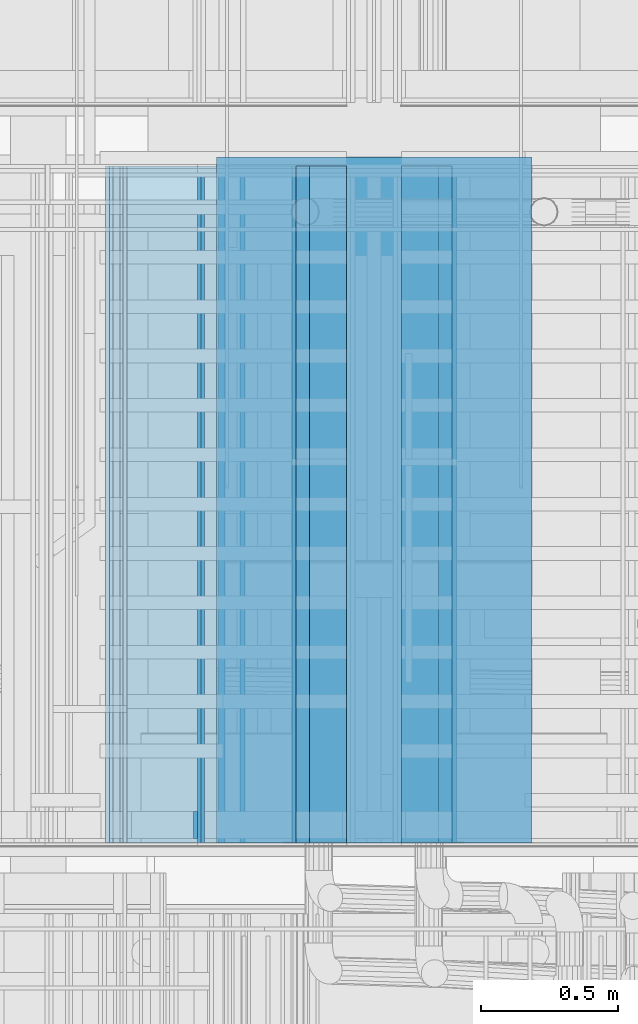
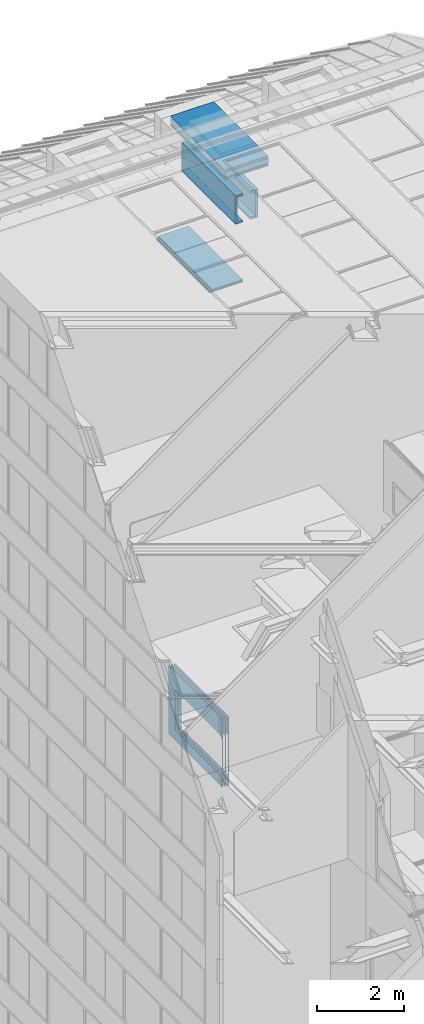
# One storey, part 149 of 583: 31 building element parts, 3 openings, 12 elements without a shape of their own.
"""IFC2X3 building model written with IfcOpenShell, lengths in metres."""

from ifc_helpers import new_model, entity, si_unit, converted_unit, derived_unit, money_unit, direction, frame, frame_2d, origin_with_axes, place, context, subcontext, project, spatial, polyline, rectangle, outline, extrude, material, type_object, element, aggregate, save


model = new_model("IFC2X3")

# Units and contexts
model_context = context("Model", 3, precision=1e-05, world=origin_with_axes(), true_north=direction((0.0, 1.0)))
body_context = subcontext(model_context, "Body", "Model", "MODEL_VIEW", scale=1.0)
ifc_project = project(units=[si_unit("LENGTHUNIT", "METRE"), si_unit("AREAUNIT", "SQUARE_METRE"), si_unit("VOLUMEUNIT", "CUBIC_METRE"), si_unit("ABSORBEDDOSEUNIT", "GRAY"), si_unit("AMOUNTOFSUBSTANCEUNIT", "MOLE"), si_unit("DOSEEQUIVALENTUNIT", "SIEVERT"), si_unit("ELECTRICCAPACITANCEUNIT", "FARAD"), si_unit("ELECTRICCHARGEUNIT", "COULOMB"), si_unit("ELECTRICCONDUCTANCEUNIT", "SIEMENS"), si_unit("ELECTRICCURRENTUNIT", "AMPERE"), si_unit("ELECTRICRESISTANCEUNIT", "OHM"), si_unit("ELECTRICVOLTAGEUNIT", "VOLT"), si_unit("ENERGYUNIT", "JOULE"), si_unit("FORCEUNIT", "NEWTON"), si_unit("FREQUENCYUNIT", "HERTZ"), si_unit("ILLUMINANCEUNIT", "LUX"), si_unit("INDUCTANCEUNIT", "HENRY"), si_unit("LUMINOUSFLUXUNIT", "LUMEN"), si_unit("LUMINOUSINTENSITYUNIT", "CANDELA"), si_unit("MAGNETICFLUXDENSITYUNIT", "TESLA"), si_unit("MAGNETICFLUXUNIT", "WEBER"), si_unit("MASSUNIT", "GRAM"), converted_unit("PLANEANGLEUNIT", "degree", entity("IfcReal", 0.0174532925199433), si_unit("PLANEANGLEUNIT", "RADIAN"), dimensions=[0, 0, 0, 0, 0, 0, 0]), si_unit("POWERUNIT", "WATT"), si_unit("PRESSUREUNIT", "PASCAL"), si_unit("RADIOACTIVITYUNIT", "BECQUEREL"), si_unit("SOLIDANGLEUNIT", "STERADIAN"), si_unit("THERMODYNAMICTEMPERATUREUNIT", "KELVIN"), si_unit("TIMEUNIT", "SECOND"), derived_unit("ACCELERATIONUNIT", [(si_unit("LENGTHUNIT", "METRE"), 1), (si_unit("TIMEUNIT", "SECOND"), -2)]), derived_unit("ANGULARVELOCITYUNIT", [(converted_unit("PLANEANGLEUNIT", "degree", entity("IfcReal", 0.0174532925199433), si_unit("PLANEANGLEUNIT", "RADIAN"), dimensions=[0, 0, 0, 0, 0, 0, 0]), 1), (si_unit("TIMEUNIT", "SECOND"), -1)]), derived_unit("CURVATUREUNIT", [(converted_unit("PLANEANGLEUNIT", "degree", entity("IfcReal", 0.0174532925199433), si_unit("PLANEANGLEUNIT", "RADIAN"), dimensions=[0, 0, 0, 0, 0, 0, 0]), 1), (si_unit("LENGTHUNIT", "METRE"), -1)]), derived_unit("DYNAMICVISCOSITYUNIT", [(si_unit("PRESSUREUNIT", "PASCAL"), 1), (si_unit("TIMEUNIT", "SECOND"), 1)]), derived_unit("HEATFLUXDENSITYUNIT", [(si_unit("POWERUNIT", "WATT"), 1), (si_unit("LENGTHUNIT", "METRE"), -2)]), derived_unit("HEATINGVALUEUNIT", [(si_unit("ENERGYUNIT", "JOULE"), 1), (si_unit("MASSUNIT", "GRAM"), -1)]), derived_unit("INTEGERCOUNTRATEUNIT", [(si_unit("TIMEUNIT", "SECOND"), -1)]), derived_unit("IONCONCENTRATIONUNIT", [(si_unit("MASSUNIT", "GRAM"), 1), (si_unit("VOLUMEUNIT", "CUBIC_METRE"), -1)]), derived_unit("ISOTHERMALMOISTURECAPACITYUNIT", [(si_unit("VOLUMEUNIT", "CUBIC_METRE"), 1), (si_unit("MASSUNIT", "GRAM"), -1)]), derived_unit("KINEMATICVISCOSITYUNIT", [(si_unit("AREAUNIT", "SQUARE_METRE"), 1), (si_unit("TIMEUNIT", "SECOND"), -1)]), derived_unit("LINEARFORCEUNIT", [(si_unit("FORCEUNIT", "NEWTON"), 1), (si_unit("LENGTHUNIT", "METRE"), -1)]), derived_unit("LINEARMOMENTUNIT", [(si_unit("FORCEUNIT", "NEWTON"), 1), (si_unit("LENGTHUNIT", "METRE"), -1)]), derived_unit("LINEARSTIFFNESSUNIT", [(si_unit("FORCEUNIT", "NEWTON"), 1), (si_unit("LENGTHUNIT", "METRE"), -1)]), derived_unit("LINEARVELOCITYUNIT", [(si_unit("LENGTHUNIT", "METRE"), 1), (si_unit("TIMEUNIT", "SECOND"), -1)]), derived_unit("LUMINOUSINTENSITYDISTRIBUTIONUNIT", [(si_unit("LUMINOUSINTENSITYUNIT", "CANDELA"), 1), (si_unit("LUMINOUSFLUXUNIT", "LUMEN"), -1)]), derived_unit("MASSDENSITYUNIT", [(si_unit("MASSUNIT", "GRAM"), 1), (si_unit("VOLUMEUNIT", "CUBIC_METRE"), -1)]), derived_unit("MASSFLOWRATEUNIT", [(si_unit("MASSUNIT", "GRAM"), 1), (si_unit("TIMEUNIT", "SECOND"), -1)]), derived_unit("MASSPERLENGTHUNIT", [(si_unit("MASSUNIT", "GRAM"), 1), (si_unit("LENGTHUNIT", "METRE"), -1)]), derived_unit("MODULUSOFELASTICITYUNIT", [(si_unit("FORCEUNIT", "NEWTON"), 1), (si_unit("AREAUNIT", "SQUARE_METRE"), -1)]), derived_unit("MODULUSOFLINEARSUBGRADEREACTIONUNIT", [(si_unit("FORCEUNIT", "NEWTON"), 1), (si_unit("LENGTHUNIT", "METRE"), -2)]), derived_unit("MODULUSOFROTATIONALSUBGRADEREACTIONUNIT", [(si_unit("FORCEUNIT", "NEWTON"), 1), (si_unit("LENGTHUNIT", "METRE"), 1)]), derived_unit("MODULUSOFSUBGRADEREACTIONUNIT", [(si_unit("FORCEUNIT", "NEWTON"), 1), (si_unit("VOLUMEUNIT", "CUBIC_METRE"), -1)]), derived_unit("MOISTUREDIFFUSIVITYUNIT", [(si_unit("VOLUMEUNIT", "CUBIC_METRE"), 1), (si_unit("TIMEUNIT", "SECOND"), -1)]), derived_unit("MOLECULARWEIGHTUNIT", [(si_unit("MASSUNIT", "GRAM"), 1), (si_unit("AMOUNTOFSUBSTANCEUNIT", "MOLE"), -1)]), derived_unit("PLANARFORCEUNIT", [(si_unit("FORCEUNIT", "NEWTON"), 1), (si_unit("LENGTHUNIT", "METRE"), -2)]), derived_unit("ROTATIONALFREQUENCYUNIT", [(si_unit("TIMEUNIT", "SECOND"), -1)]), derived_unit("ROTATIONALMASSUNIT", [(si_unit("MASSUNIT", "GRAM"), 1), (si_unit("LENGTHUNIT", "METRE"), 2)]), derived_unit("ROTATIONALSTIFFNESSUNIT", [(si_unit("FORCEUNIT", "NEWTON"), 1), (si_unit("LENGTHUNIT", "METRE"), 1), (converted_unit("PLANEANGLEUNIT", "degree", entity("IfcReal", 0.0174532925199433), si_unit("PLANEANGLEUNIT", "RADIAN"), dimensions=[0, 0, 0, 0, 0, 0, 0]), -1)]), derived_unit("SECTIONAREAINTEGRALUNIT", [(si_unit("LENGTHUNIT", "METRE"), 5)]), derived_unit("SECTIONMODULUSUNIT", [(si_unit("LENGTHUNIT", "METRE"), 3)]), derived_unit("SHEARMODULUSUNIT", [(si_unit("FORCEUNIT", "NEWTON"), 1), (si_unit("AREAUNIT", "SQUARE_METRE"), -1)]), derived_unit("SOUNDPOWERUNIT", [(si_unit("ENERGYUNIT", "JOULE"), 1), (si_unit("TIMEUNIT", "SECOND"), -1)]), derived_unit("SPECIFICHEATCAPACITYUNIT", [(si_unit("FORCEUNIT", "NEWTON"), 1), (si_unit("MASSUNIT", "GRAM"), -1), (si_unit("THERMODYNAMICTEMPERATUREUNIT", "KELVIN"), -1)]), derived_unit("TEMPERATUREGRADIENTUNIT", [(si_unit("THERMODYNAMICTEMPERATUREUNIT", "KELVIN"), 1), (si_unit("LENGTHUNIT", "METRE"), -1)]), derived_unit("THERMALADMITTANCEUNIT", [(si_unit("POWERUNIT", "WATT"), 1), (si_unit("AREAUNIT", "SQUARE_METRE"), -1), (si_unit("THERMODYNAMICTEMPERATUREUNIT", "KELVIN"), -1)]), derived_unit("THERMALCONDUCTANCEUNIT", [(si_unit("POWERUNIT", "WATT"), 1), (si_unit("LENGTHUNIT", "METRE"), -1), (si_unit("THERMODYNAMICTEMPERATUREUNIT", "KELVIN"), -1)]), derived_unit("THERMALEXPANSIONCOEFFICIENTUNIT", [(si_unit("THERMODYNAMICTEMPERATUREUNIT", "KELVIN"), -1)]), derived_unit("THERMALRESISTANCEUNIT", [(si_unit("AREAUNIT", "SQUARE_METRE"), 1), (si_unit("POWERUNIT", "WATT"), -1)]), derived_unit("THERMALTRANSMITTANCEUNIT", [(si_unit("POWERUNIT", "WATT"), 1), (si_unit("AREAUNIT", "SQUARE_METRE"), -1), (si_unit("THERMODYNAMICTEMPERATUREUNIT", "KELVIN"), -1)]), derived_unit("TORQUEUNIT", [(si_unit("FORCEUNIT", "NEWTON"), 1), (si_unit("LENGTHUNIT", "METRE"), 1)]), derived_unit("VAPORPERMEABILITYUNIT", [(si_unit("MASSUNIT", "GRAM"), 1), (si_unit("TIMEUNIT", "SECOND"), -1)]), derived_unit("VOLUMETRICFLOWRATEUNIT", [(si_unit("VOLUMEUNIT", "CUBIC_METRE"), 1), (si_unit("TIMEUNIT", "SECOND"), -1)]), derived_unit("WARPINGCONSTANTUNIT", [(si_unit("LENGTHUNIT", "METRE"), 6)]), derived_unit("WARPINGMOMENTUNIT", [(si_unit("FORCEUNIT", "NEWTON"), 1), (si_unit("LENGTHUNIT", "METRE"), 2)]), money_unit("GBP")], contexts=[model_context])

# Site, building, storey
site_placement = place(None, origin_with_axes())
site = spatial("IfcSite", under=ifc_project, at=site_placement, Name="Site", CompositionType="ELEMENT")
building_placement = place(site_placement, origin_with_axes())
building = spatial("IfcBuilding", under=site, at=building_placement, Name="Building01", CompositionType="ELEMENT")
storey_placement = place(building_placement, frame((0.0, 0.0, 20.78), z_axis=(0.0, 0.0, 1.0), x_axis=(1.0, 0.0, 0.0)))
storey = spatial("IfcBuildingStorey", under=building, at=storey_placement, Name="RL", CompositionType="ELEMENT", Elevation=20.78)

# Wall, building element parts
wall_type_1 = type_object("IfcWallType", Name="SHE_A-Walls_Type06e_ExternalWallPenthouse_280mm", PredefinedType="NOTDEFINED")
wall_1_placement = place(storey_placement, frame((8.024915, 14.98, 5.635061), z_axis=(0.0, 1.0, 0.0), x_axis=(-1.0, 0.0, 0.0)))
wall_1 = element("IfcWall", 1, at=wall_1_placement, inside=storey, type_object=wall_type_1, Name="6E", ObjectType="SHE_A-Walls_Type06e_ExternalWallPenthouse_280mm")
ifc_material_1 = material(Name="A_BSUK_Insulation")
placement_1 = place(wall_1_placement, origin_with_axes())
building_element_part_1 = element("IfcBuildingElementPart", 2, at=placement_1, material=ifc_material_1, Name="1", context=body_context, shape_type="SweptSolid", body=[
    extrude(rectangle(XDim=1.149951, YDim=0.14, at=frame_2d((0.574976, -0.07), x_axis=(-1.0, 0.0))), origin_with_axes(), (0.0, 0.0, 1.0), 2.5),
])
building_element_part_2 = element("IfcBuildingElementPart", 3, at=placement_1, material=ifc_material_1, Name="2", context=body_context, shape_type="SweptSolid", body=[
    extrude(rectangle(XDim=1.149951, YDim=0.04, at=frame_2d((0.574976, -0.185), x_axis=(-1.0, 0.0))), origin_with_axes(), (0.0, 0.0, 1.0), 2.5),
])
ifc_material_2 = material(Name="A_BSUK_WallInternal_Finishes_Plasterboard")
building_element_part_3 = element("IfcBuildingElementPart", 4, at=placement_1, material=ifc_material_2, Name="4", context=body_context, shape_type="SweptSolid", body=[
    extrude(rectangle(XDim=1.149951, YDim=0.01, at=frame_2d((0.574976, -0.21), x_axis=(-1.0, 0.0))), origin_with_axes(), (0.0, 0.0, 1.0), 2.5),
])
ifc_material_3 = material(Name="A_BSUK_Walls_Timber")
building_element_part_4 = element("IfcBuildingElementPart", 5, at=placement_1, material=ifc_material_3, Name="5", context=body_context, shape_type="SweptSolid", body=[
    extrude(rectangle(XDim=1.149951, YDim=0.01, at=frame_2d((0.574976, 0.005), x_axis=(-1.0, 0.0))), origin_with_axes(), (0.0, 0.0, 1.0), 2.5),
])
ifc_material_4 = material(Name="A_BSUK_WallInternal_Finishes_Metal")
building_element_part_5 = element("IfcBuildingElementPart", 6, at=placement_1, material=ifc_material_4, Name="6", context=body_context, shape_type="SweptSolid", body=[
    extrude(rectangle(XDim=1.149951, YDim=0.005, at=frame_2d((0.574976, 0.0625), x_axis=(-1.0, 0.0))), origin_with_axes(), (0.0, 0.0, 1.0), 2.5),
])
aggregate(wall_1, [building_element_part_1, building_element_part_2, building_element_part_3, building_element_part_4, building_element_part_5])

wall_type_2 = type_object("IfcWallType", Name="SHE_A-Walls_Type05c_PreWallShell_65mm", PredefinedType="NOTDEFINED")
wall_2_placement = place(storey_placement, frame((7.684913, 14.98, 4.093821), z_axis=(0.0, 1.0, 0.0), x_axis=(0.0, 0.0, 1.0)))
wall_2 = element("IfcWall", 7, at=wall_2_placement, inside=storey, type_object=wall_type_2, Name="5C", ObjectType="SHE_A-Walls_Type05c_PreWallShell_65mm")
ifc_material_5 = material(Name="A_BSUK_OpeningsClearance")
placement_2 = place(wall_2_placement, origin_with_axes())
building_element_part_6 = element("IfcBuildingElementPart", 8, at=placement_2, material=ifc_material_5, Name="1", context=body_context, shape_type="SweptSolid", body=[
    extrude(rectangle(XDim=0.77, YDim=0.05, at=frame_2d((0.385, 0.025), x_axis=(-1.0, 0.0))), origin_with_axes(), (0.0, 0.0, 1.0), 2.468),
])
building_element_part_7 = element("IfcBuildingElementPart", 9, at=placement_2, material=ifc_material_3, Name="2", context=body_context, shape_type="SweptSolid", body=[
    extrude(rectangle(XDim=0.8, YDim=0.015, at=frame_2d((0.385, 0.0575), x_axis=(-1.0, 0.0))), origin_with_axes(), (0.0, 0.0, 1.0), 2.468),
])
aggregate(wall_2, [building_element_part_6, building_element_part_7])

wall_3_placement = place(storey_placement, frame((7.549915, 14.98, 4.143821), z_axis=(0.0, 1.0, 0.0), x_axis=(1.0, 0.0, 0.0)))
wall_3 = element("IfcWall", 10, at=wall_3_placement, inside=storey, type_object=wall_type_2, Name="5C", ObjectType="SHE_A-Walls_Type05c_PreWallShell_65mm")
placement_3 = place(wall_3_placement, origin_with_axes())
building_element_part_8 = element("IfcBuildingElementPart", 11, at=placement_3, material=ifc_material_5, Name="1", context=body_context, shape_type="SweptSolid", body=[
    extrude(rectangle(XDim=0.134998, YDim=0.05, at=frame_2d((0.067499, 0.025), x_axis=(-1.0, 0.0))), origin_with_axes(), (0.0, 0.0, 1.0), 2.468),
])
building_element_part_9 = element("IfcBuildingElementPart", 12, at=placement_3, material=ifc_material_3, Name="2", context=body_context, shape_type="SweptSolid", body=[
    extrude(rectangle(XDim=0.184998, YDim=0.015, at=frame_2d((0.092499, 0.0575), x_axis=(-1.0, 0.0))), origin_with_axes(), (0.0, 0.0, 1.0), 2.468),
])
aggregate(wall_3, [building_element_part_8, building_element_part_9])

wall_4_placement = place(storey_placement, frame((7.549915, 14.98, 4.813821), z_axis=(0.0, 1.0, 0.0), x_axis=(1.0, 0.0, 0.0)))
wall_4 = element("IfcWall", 13, at=wall_4_placement, inside=storey, type_object=wall_type_2, Name="5C", ObjectType="SHE_A-Walls_Type05c_PreWallShell_65mm")
placement_4 = place(wall_4_placement, origin_with_axes())
building_element_part_10 = element("IfcBuildingElementPart", 14, at=placement_4, material=ifc_material_5, Name="1", context=body_context, shape_type="SweptSolid", body=[
    extrude(rectangle(XDim=0.134998, YDim=0.05, at=frame_2d((0.067499, -0.025), x_axis=(-1.0, 0.0))), origin_with_axes(), (0.0, 0.0, 1.0), 2.468),
])
building_element_part_11 = element("IfcBuildingElementPart", 15, at=placement_4, material=ifc_material_3, Name="2", context=body_context, shape_type="SweptSolid", body=[
    extrude(rectangle(XDim=0.184998, YDim=0.015, at=frame_2d((0.092499, -0.0575), x_axis=(-1.0, 0.0))), origin_with_axes(), (0.0, 0.0, 1.0), 2.468),
])
aggregate(wall_4, [building_element_part_10, building_element_part_11])

placement_5 = place(storey_placement, frame((7.214966, 14.98, 4.093821), z_axis=(0.0, 1.0, 0.0), x_axis=(0.0, 0.0, 1.0)))
wall_5 = element("IfcWall", 16, at=placement_5, inside=storey, type_object=wall_type_2, Name="5C", ObjectType="SHE_A-Walls_Type05c_PreWallShell_65mm")
placement_6 = place(placement_5, origin_with_axes())
building_element_part_12 = element("IfcBuildingElementPart", 17, at=placement_6, material=ifc_material_5, Name="1", context=body_context, shape_type="SweptSolid", body=[
    extrude(rectangle(XDim=0.77, YDim=0.05, at=frame_2d((0.385, -0.025), x_axis=(-1.0, 0.0))), origin_with_axes(), (0.0, 0.0, 1.0), 2.468),
])
building_element_part_13 = element("IfcBuildingElementPart", 18, at=placement_6, material=ifc_material_3, Name="2", context=body_context, shape_type="SweptSolid", body=[
    extrude(rectangle(XDim=0.8, YDim=0.015, at=frame_2d((0.385, -0.0575), x_axis=(-1.0, 0.0))), origin_with_axes(), (0.0, 0.0, 1.0), 2.468),
])
aggregate(wall_5, [building_element_part_12, building_element_part_13])

placement_7 = place(storey_placement, frame((7.349915, 14.98, 4.143821), z_axis=(0.0, 1.0, 0.0), x_axis=(-1.0, 0.0, 0.0)))
wall_6 = element("IfcWall", 19, at=placement_7, inside=storey, type_object=wall_type_2, Name="5C", ObjectType="SHE_A-Walls_Type05c_PreWallShell_65mm")
placement_8 = place(placement_7, origin_with_axes())
building_element_part_14 = element("IfcBuildingElementPart", 20, at=placement_8, material=ifc_material_5, Name="1", context=body_context, shape_type="SweptSolid", body=[
    extrude(rectangle(XDim=0.134949, YDim=0.05, at=frame_2d((0.067474, -0.025), x_axis=(-1.0, 0.0))), origin_with_axes(), (0.0, 0.0, 1.0), 2.468),
])
building_element_part_15 = element("IfcBuildingElementPart", 21, at=placement_8, material=ifc_material_3, Name="2", context=body_context, shape_type="SweptSolid", body=[
    extrude(rectangle(XDim=0.184949, YDim=0.015, at=frame_2d((0.092474, -0.0575), x_axis=(-1.0, 0.0))), origin_with_axes(), (0.0, 0.0, 1.0), 2.468),
])
aggregate(wall_6, [building_element_part_14, building_element_part_15])

placement_9 = place(storey_placement, frame((7.349915, 14.98, 4.813821), z_axis=(0.0, 1.0, 0.0), x_axis=(-1.0, 0.0, 0.0)))
wall_7 = element("IfcWall", 22, at=placement_9, inside=storey, type_object=wall_type_2, Name="5C", ObjectType="SHE_A-Walls_Type05c_PreWallShell_65mm")
placement_10 = place(placement_9, origin_with_axes())
building_element_part_16 = element("IfcBuildingElementPart", 23, at=placement_10, material=ifc_material_5, Name="1", context=body_context, shape_type="SweptSolid", body=[
    extrude(rectangle(XDim=0.134949, YDim=0.05, at=frame_2d((0.067474, 0.025), x_axis=(-1.0, 0.0))), origin_with_axes(), (0.0, 0.0, 1.0), 2.468),
])
building_element_part_17 = element("IfcBuildingElementPart", 24, at=placement_10, material=ifc_material_3, Name="2", context=body_context, shape_type="SweptSolid", body=[
    extrude(rectangle(XDim=0.184949, YDim=0.015, at=frame_2d((0.092474, 0.0575), x_axis=(-1.0, 0.0))), origin_with_axes(), (0.0, 0.0, 1.0), 2.468),
])
aggregate(wall_7, [building_element_part_16, building_element_part_17])

wall_type_3 = type_object("IfcWallType", Name="SHE_A-Walls_Type05b_Partition_80mm", PredefinedType="NOTDEFINED")
wall_8_placement = place(storey_placement, frame((7.349915, 14.98, 2.426821), z_axis=(0.0, 1.0, 0.0), x_axis=(-1.0, 0.0, 0.0)))
wall_8 = element("IfcWall", 25, at=wall_8_placement, inside=storey, type_object=wall_type_3, Name="5B", ObjectType="SHE_A-Walls_Type05b_Partition_80mm")
placement_11 = place(wall_8_placement, origin_with_axes())
building_element_part_18 = element("IfcBuildingElementPart", 26, at=placement_11, material=ifc_material_1, Name="1", context=body_context, shape_type="SweptSolid", body=[
    extrude(outline(polyline([(0.82683, 0.025), (0.0, 0.025), (0.0, 0.0), (0.85183, 0.0), (0.82683, 0.025)])), origin_with_axes(), (0.0, 0.0, 1.0), 2.468),
])
building_element_part_19 = element("IfcBuildingElementPart", 27, at=placement_11, material=ifc_material_2, Name="3", context=body_context, shape_type="SweptSolid", body=[
    extrude(outline(polyline([(0.86483, -0.013), (0.0, -0.013), (0.0, -0.028), (0.87983, -0.028), (0.86483, -0.013)])), origin_with_axes(), (0.0, 0.0, 1.0), 2.468),
])
building_element_part_20 = element("IfcBuildingElementPart", 28, at=placement_11, material=ifc_material_2, Name="4", context=body_context, shape_type="SweptSolid", body=[
    extrude(outline(polyline([(0.79983, 0.052), (0.0, 0.052), (0.0, 0.037), (0.81483, 0.037), (0.79983, 0.052)])), origin_with_axes(), (0.0, 0.0, 1.0), 2.468),
])
aggregate(wall_8, [building_element_part_18, building_element_part_19, building_element_part_20])

# Wall, openings, building element parts
wall_type_4 = type_object("IfcWallType", Name="SHE_A-Walls_Type02b_LiftShaftWall_173mm", PredefinedType="NOTDEFINED")
wall_9_placement = place(storey_placement, frame((6.907, 14.98, -9.635), z_axis=(0.0, 1.0, 0.0), x_axis=(0.0, 0.0, -1.0)))
wall_9 = element("IfcWall", 29, at=wall_9_placement, inside=storey, type_object=wall_type_4, Name="2B", ObjectType="SHE_A-Walls_Type02b_LiftShaftWall_173mm")
opening_1_placement = place(wall_9_placement, frame((0.553302, 0.213454, 0.015), z_axis=(0.0, 0.0, 1.0), x_axis=(1.0, 0.0, 0.0)))
element("IfcOpeningElement", 30, at=opening_1_placement, cuts=wall_9, Name="Opening", ObjectType="Opening", context=body_context, shape_type="SweptSolid", body=[
    extrude(rectangle(XDim=2.14, YDim=1.08, at=frame_2d((-0.54, 1.07), x_axis=(0.0, -1.0))), frame((0.0, -0.320181, 0.0), z_axis=(0.0, 1.0, 0.0), x_axis=(-1.0, 0.0, 0.0)), (0.0, 0.0, 1.0), 0.640361),
])
opening_2_placement = place(wall_9_placement, frame((0.5, -0.048, 0.015), z_axis=(0.0, 0.0, 1.0), x_axis=(1.0, 0.0, 0.0)))
element("IfcOpeningElement", 31, at=opening_2_placement, cuts=wall_9, Name="Opening", ObjectType="Opening", context=body_context, shape_type="SweptSolid", body=[
    extrude(rectangle(XDim=2.14, YDim=1.08, at=frame_2d((-0.54, 1.07), x_axis=(0.0, -1.0))), frame((0.0, -0.1095, 0.0), z_axis=(0.0, 1.0, 0.0), x_axis=(-1.0, 0.0, 0.0)), (0.0, 0.0, 1.0), 0.219),
])
opening_3_placement = place(wall_9_placement, frame((0.5, 0.082, 0.03), z_axis=(0.0, 0.0, 1.0), x_axis=(1.0, 0.0, 0.0)))
element("IfcOpeningElement", 32, at=opening_3_placement, cuts=wall_9, Name="Opening", ObjectType="Opening", context=body_context, shape_type="SweptSolid", body=[
    extrude(rectangle(XDim=2.14, YDim=1.08, at=frame_2d((-0.54, 1.07), x_axis=(0.0, -1.0))), frame((0.0, -3.459988, 0.0), z_axis=(0.0, 1.0, 0.0), x_axis=(-1.0, 0.0, 0.0)), (0.0, 0.0, 1.0), 6.919976),
])
placement_12 = place(wall_9_placement, origin_with_axes())
building_element_part_21 = element("IfcBuildingElementPart", 33, at=placement_12, material=ifc_material_1, Name="1", context=body_context, shape_type="SweptSolid", body=[
    extrude(rectangle(XDim=1.93, YDim=0.025, at=frame_2d((0.965, 0.0125), x_axis=(-1.0, 0.0))), origin_with_axes(), (0.0, 0.0, 1.0), 2.473),
])
building_element_part_22 = element("IfcBuildingElementPart", 34, at=placement_12, material=ifc_material_2, Name="2", context=body_context, shape_type="SweptSolid", body=[
    extrude(rectangle(XDim=1.93, YDim=0.019, at=frame_2d((0.965, -0.0635), x_axis=(-1.0, 0.0))), origin_with_axes(), (0.0, 0.0, 1.0), 2.473),
])
building_element_part_23 = element("IfcBuildingElementPart", 35, at=placement_12, material=ifc_material_3, Name="3", context=body_context, shape_type="SweptSolid", body=[
    extrude(rectangle(XDim=1.87, YDim=0.015, at=frame_2d((0.965, 0.1075), x_axis=(-1.0, 0.0))), frame((0.0, 0.0, 0.015), z_axis=(0.0, 0.0, 1.0), x_axis=(1.0, 0.0, 0.0)), (0.0, 0.0, 1.0), 0.1),
])
building_element_part_24 = element("IfcBuildingElementPart", 36, at=placement_12, material=ifc_material_2, Name="4", context=body_context, shape_type="SweptSolid", body=[
    extrude(rectangle(XDim=1.915, YDim=0.012, at=frame_2d((0.9575, 0.094), x_axis=(-1.0, 0.0))), origin_with_axes(), (0.0, 0.0, 1.0), 2.473),
])
building_element_part_25 = element("IfcBuildingElementPart", 37, at=placement_12, material=ifc_material_2, Name="5", context=body_context, shape_type="SweptSolid", body=[
    extrude(rectangle(XDim=1.915, YDim=0.012, at=frame_2d((0.9575, 0.082), x_axis=(-1.0, 0.0))), origin_with_axes(), (0.0, 0.0, 1.0), 2.473),
])
aggregate(wall_9, [building_element_part_21, building_element_part_22, building_element_part_23, building_element_part_24, building_element_part_25])

# Wall, building element parts
wall_10 = element("IfcWall", 38, at=placement_5, inside=storey, type_object=wall_type_2, Name="5C", ObjectType="SHE_A-Walls_Type05c_PreWallShell_65mm")
building_element_part_26 = element("IfcBuildingElementPart", 39, at=placement_6, material=ifc_material_5, Name="1", context=body_context, shape_type="SweptSolid", body=[
    extrude(rectangle(XDim=0.77, YDim=0.05, at=frame_2d((0.385, -0.025), x_axis=(-1.0, 0.0))), origin_with_axes(), (0.0, 0.0, 1.0), 2.468),
])
building_element_part_27 = element("IfcBuildingElementPart", 40, at=placement_6, material=ifc_material_3, Name="2", context=body_context, shape_type="SweptSolid", body=[
    extrude(rectangle(XDim=0.8, YDim=0.015, at=frame_2d((0.385, -0.0575), x_axis=(-1.0, 0.0))), origin_with_axes(), (0.0, 0.0, 1.0), 2.468),
])
aggregate(wall_10, [building_element_part_26, building_element_part_27])

wall_11 = element("IfcWall", 41, at=placement_7, inside=storey, type_object=wall_type_2, Name="5C", ObjectType="SHE_A-Walls_Type05c_PreWallShell_65mm")
building_element_part_28 = element("IfcBuildingElementPart", 42, at=placement_8, material=ifc_material_5, Name="1", context=body_context, shape_type="SweptSolid", body=[
    extrude(rectangle(XDim=0.134949, YDim=0.05, at=frame_2d((0.067474, -0.025), x_axis=(-1.0, 0.0))), origin_with_axes(), (0.0, 0.0, 1.0), 2.468),
])
building_element_part_29 = element("IfcBuildingElementPart", 43, at=placement_8, material=ifc_material_3, Name="2", context=body_context, shape_type="SweptSolid", body=[
    extrude(rectangle(XDim=0.184949, YDim=0.015, at=frame_2d((0.092474, -0.0575), x_axis=(-1.0, 0.0))), origin_with_axes(), (0.0, 0.0, 1.0), 2.468),
])
aggregate(wall_11, [building_element_part_28, building_element_part_29])

wall_12 = element("IfcWall", 44, at=placement_9, inside=storey, type_object=wall_type_2, Name="5C", ObjectType="SHE_A-Walls_Type05c_PreWallShell_65mm")
building_element_part_30 = element("IfcBuildingElementPart", 45, at=placement_10, material=ifc_material_5, Name="1", context=body_context, shape_type="SweptSolid", body=[
    extrude(rectangle(XDim=0.134949, YDim=0.05, at=frame_2d((0.067474, 0.025), x_axis=(-1.0, 0.0))), origin_with_axes(), (0.0, 0.0, 1.0), 2.468),
])
building_element_part_31 = element("IfcBuildingElementPart", 46, at=placement_10, material=ifc_material_3, Name="2", context=body_context, shape_type="SweptSolid", body=[
    extrude(rectangle(XDim=0.184949, YDim=0.015, at=frame_2d((0.092474, 0.0575), x_axis=(-1.0, 0.0))), origin_with_axes(), (0.0, 0.0, 1.0), 2.468),
])
aggregate(wall_12, [building_element_part_30, building_element_part_31])

save(model, "model.ifc")
